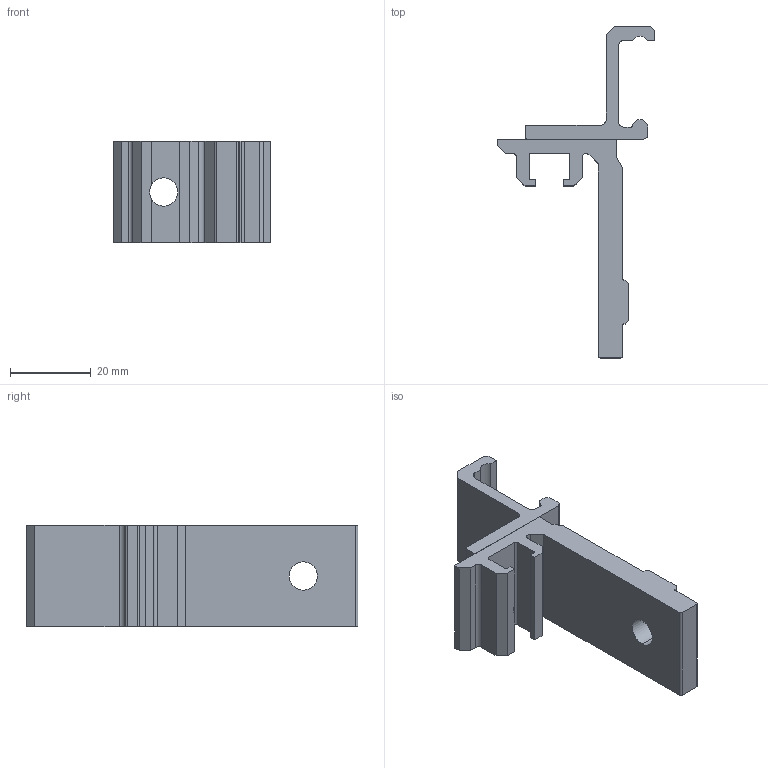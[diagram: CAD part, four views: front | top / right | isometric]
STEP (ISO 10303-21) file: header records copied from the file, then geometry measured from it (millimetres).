
FILE_DESCRIPTION (( 'STEP AP214' ), '1' );
FILE_NAME ('FABER - FGRA 8X9X45.STEP', '2017-04-05T12:12:34', ( '' ), ( '' ), 'SwSTEP 2.0', 'SolidWorks 2016', '' );
FILE_SCHEMA (( 'AUTOMOTIVE_DESIGN' ));
Length unit declared in the file: millimetre
Products named in the file (3): Partie inf fgra-8X9X45; FABER - FGRA 8X9X45; Partie sup. FGRA-8x9x45 et 26x9x45
Assembly tree (2 placements, depth 2):
  FABER - FGRA 8X9X45
    Partie inf fgra-8X9X45
    Partie sup. FGRA-8x9x45 et 26x9x45
Bounding box: 39 x 81.99 x 25 mm (x, y, z)
Volume: 16170.4 mm3; surface area: 9736.9 mm2
Topology: 2 solids, 2 shells, 76 faces, 216 edges, 144 vertices
Faces by surface type: plane 50, cylinder 26
Entity records: 2594 total; most frequent: CARTESIAN_POINT 447, ORIENTED_EDGE 432, DIRECTION 428, EDGE_CURVE 216, VECTOR 162, LINE 162, VERTEX_POINT 144, AXIS2_PLACEMENT_3D 133
